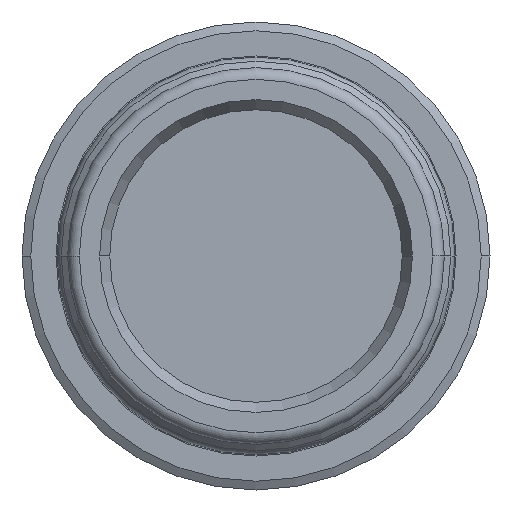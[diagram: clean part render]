
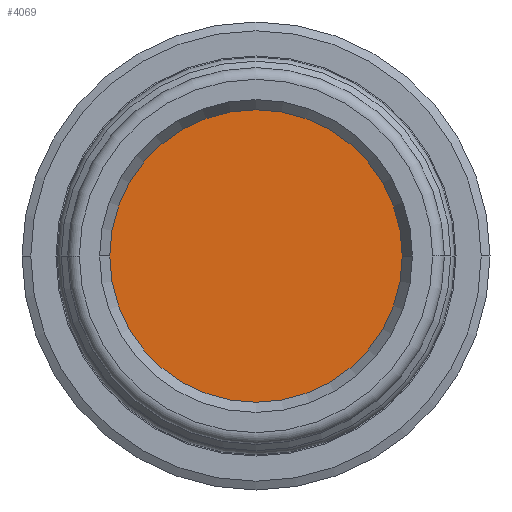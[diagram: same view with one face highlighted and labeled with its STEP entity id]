
A CAD part, front view. The second image highlights one B-rep face of the part: STEP entity #4069.
In plain terms, the highlighted planar face has unit normal (0, -1, 0).
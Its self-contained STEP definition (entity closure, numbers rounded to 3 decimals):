
#739 = VERTEX_POINT ( 'NONE', #7142 ) ;
#1218 = CARTESIAN_POINT ( 'NONE',  ( 0., 0., 0. ) ) ;
#1642 = DIRECTION ( 'NONE',  ( 0., 0., -1. ) ) ;
#2078 = DIRECTION ( 'NONE',  ( 0., 0., -1. ) ) ;
#2456 = CIRCLE ( 'NONE', #9231, 12.5 ) ;
#2857 = AXIS2_PLACEMENT_3D ( 'NONE', #5143, #10345, #7699 ) ;
#2886 = DIRECTION ( 'NONE',  ( 0., -1., 0. ) ) ;
#3406 = PLANE ( 'NONE',  #8642 ) ;
#4069 = ADVANCED_FACE ( 'NONE', ( #8766 ), #3406, .T. ) ;
#4244 = DIRECTION ( 'NONE',  ( 0., -1., 0. ) ) ;
#4274 = ORIENTED_EDGE ( 'NONE', *, *, #5028, .T. ) ;
#4940 = VERTEX_POINT ( 'NONE', #5369 ) ;
#5028 = EDGE_CURVE ( 'NONE', #4940, #739, #2456, .T. ) ;
#5143 = CARTESIAN_POINT ( 'NONE',  ( 0., 0., 0. ) ) ;
#5369 = CARTESIAN_POINT ( 'NONE',  ( 0., 0., 12.5 ) ) ;
#6055 = ORIENTED_EDGE ( 'NONE', *, *, #7360, .T. ) ;
#6233 = CIRCLE ( 'NONE', #2857, 12.5 ) ;
#7142 = CARTESIAN_POINT ( 'NONE',  ( 0., 0., -12.5 ) ) ;
#7360 = EDGE_CURVE ( 'NONE', #739, #4940, #6233, .T. ) ;
#7699 = DIRECTION ( 'NONE',  ( 0., 0., -1. ) ) ;
#8642 = AXIS2_PLACEMENT_3D ( 'NONE', #11233, #4244, #1642 ) ;
#8766 = FACE_OUTER_BOUND ( 'NONE', #9805, .T. ) ;
#9231 = AXIS2_PLACEMENT_3D ( 'NONE', #1218, #2886, #2078 ) ;
#9805 = EDGE_LOOP ( 'NONE', ( #6055, #4274 ) ) ;
#10345 = DIRECTION ( 'NONE',  ( 0., -1., 0. ) ) ;
#11233 = CARTESIAN_POINT ( 'NONE',  ( 0., 0., 0. ) ) ;
